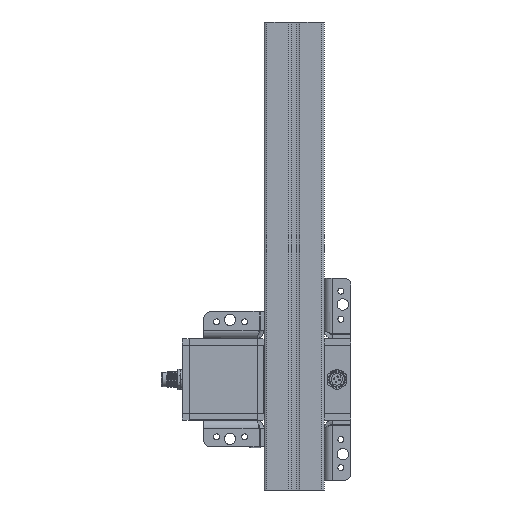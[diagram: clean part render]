
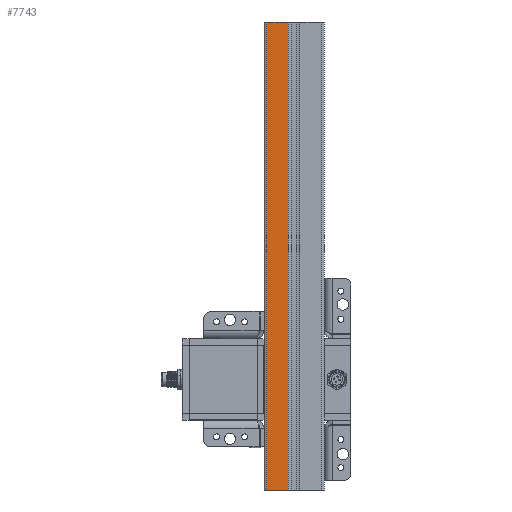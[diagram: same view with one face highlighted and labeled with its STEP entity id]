
A CAD part, front view. The second image highlights one B-rep face of the part: STEP entity #7743.
In plain terms, the highlighted planar face has unit normal (0, -1, 0).
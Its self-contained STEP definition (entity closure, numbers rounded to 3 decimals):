
#758 = VERTEX_POINT ( 'NONE', #16681 ) ;
#1168 = VERTEX_POINT ( 'NONE', #32922 ) ;
#1250 = DIRECTION ( 'NONE',  ( 0., 0., -1. ) ) ;
#1371 = EDGE_CURVE ( 'NONE', #1168, #1674, #16286, .T. ) ;
#1674 = VERTEX_POINT ( 'NONE', #7640 ) ;
#2850 = EDGE_LOOP ( 'NONE', ( #25311, #33834, #7146, #35046 ) ) ;
#3648 = CARTESIAN_POINT ( 'NONE',  ( -20.5, -22.5, 350. ) ) ;
#3762 = CARTESIAN_POINT ( 'NONE',  ( -4.2, -22.5, 350. ) ) ;
#4149 = LINE ( 'NONE', #37237, #4617 ) ;
#4228 = PLANE ( 'NONE',  #31167 ) ;
#4450 = DIRECTION ( 'NONE',  ( 0., 0., -1. ) ) ;
#4617 = VECTOR ( 'NONE', #4450, 1000. ) ;
#4808 = VERTEX_POINT ( 'NONE', #24820 ) ;
#7146 = ORIENTED_EDGE ( 'NONE', *, *, #27927, .F. ) ;
#7640 = CARTESIAN_POINT ( 'NONE',  ( -4.2, -22.5, 0. ) ) ;
#7743 = ADVANCED_FACE ( 'NONE', ( #18049 ), #4228, .F. ) ;
#8239 = EDGE_CURVE ( 'NONE', #758, #1674, #18833, .T. ) ;
#11651 = VECTOR ( 'NONE', #1250, 1000. ) ;
#13177 = DIRECTION ( 'NONE',  ( 0., 1., 0. ) ) ;
#14785 = VECTOR ( 'NONE', #21171, 1000. ) ;
#16286 = LINE ( 'NONE', #31931, #14785 ) ;
#16681 = CARTESIAN_POINT ( 'NONE',  ( -4.2, -22.5, 350. ) ) ;
#18049 = FACE_OUTER_BOUND ( 'NONE', #2850, .T. ) ;
#18833 = LINE ( 'NONE', #3762, #11651 ) ;
#19290 = CARTESIAN_POINT ( 'NONE',  ( -20.5, -22.5, 350. ) ) ;
#21171 = DIRECTION ( 'NONE',  ( 1., 0., 0. ) ) ;
#24820 = CARTESIAN_POINT ( 'NONE',  ( -20.5, -22.5, 350. ) ) ;
#25311 = ORIENTED_EDGE ( 'NONE', *, *, #1371, .T. ) ;
#27927 = EDGE_CURVE ( 'NONE', #4808, #758, #35270, .T. ) ;
#30763 = DIRECTION ( 'NONE',  ( 1., 0., 0. ) ) ;
#31167 = AXIS2_PLACEMENT_3D ( 'NONE', #3648, #13177, #31246 ) ;
#31246 = DIRECTION ( 'NONE',  ( -1., 0., 0. ) ) ;
#31931 = CARTESIAN_POINT ( 'NONE',  ( -20.5, -22.5, 0. ) ) ;
#32922 = CARTESIAN_POINT ( 'NONE',  ( -20.5, -22.5, 0. ) ) ;
#33834 = ORIENTED_EDGE ( 'NONE', *, *, #8239, .F. ) ;
#34188 = EDGE_CURVE ( 'NONE', #4808, #1168, #4149, .T. ) ;
#35046 = ORIENTED_EDGE ( 'NONE', *, *, #34188, .T. ) ;
#35270 = LINE ( 'NONE', #19290, #35549 ) ;
#35549 = VECTOR ( 'NONE', #30763, 1000. ) ;
#37237 = CARTESIAN_POINT ( 'NONE',  ( -20.5, -22.5, 350. ) ) ;
